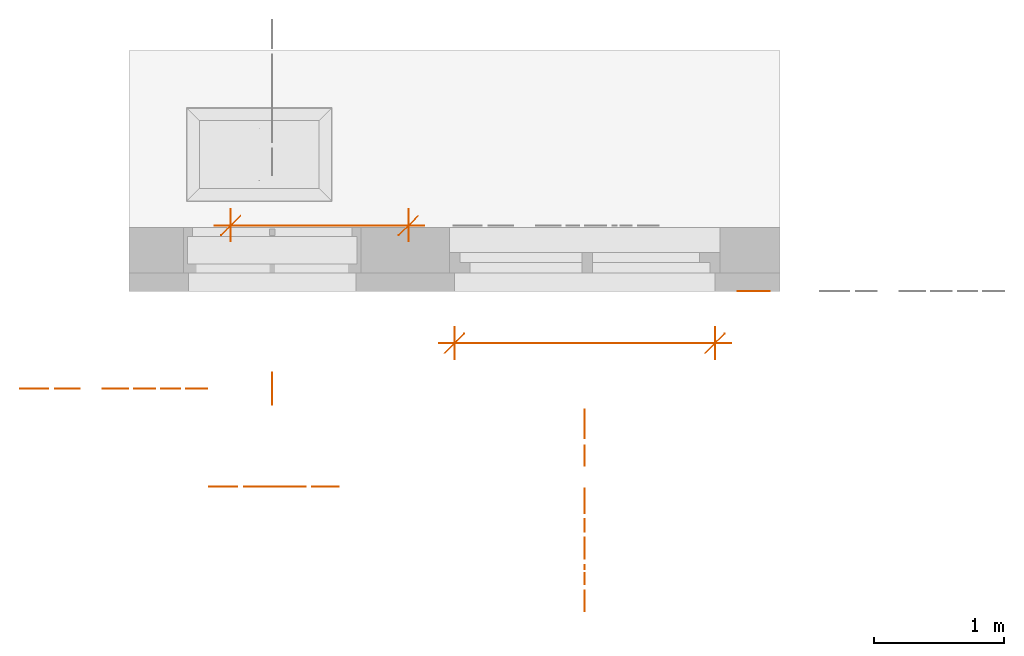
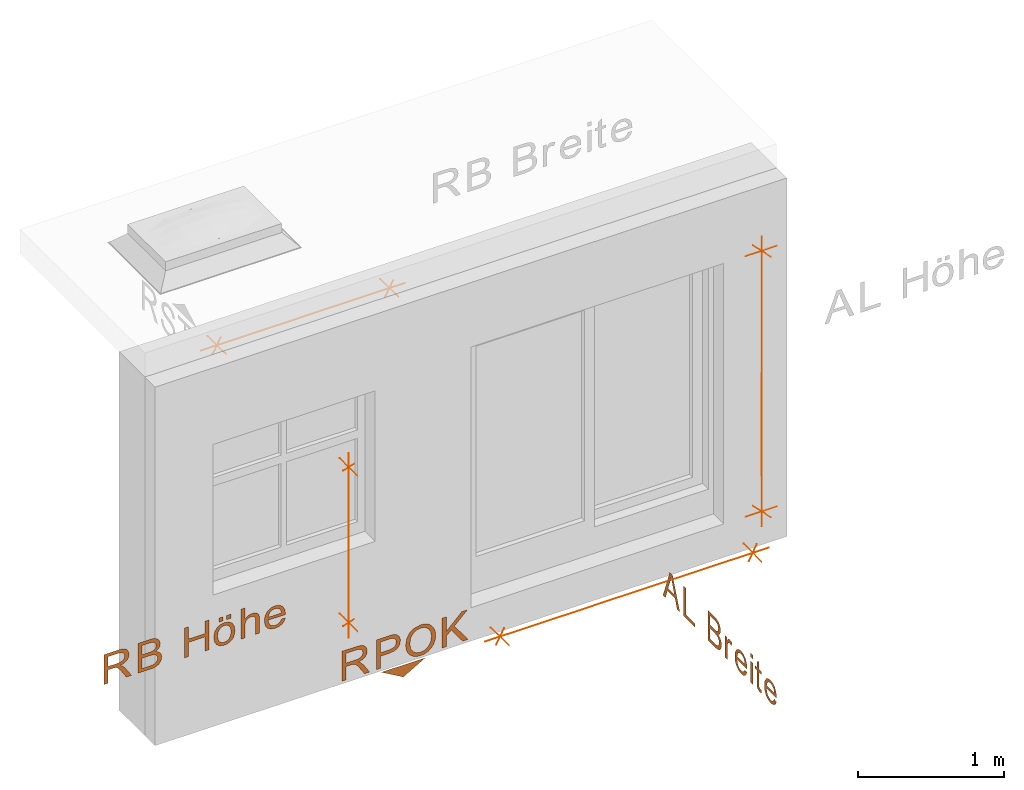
# One storey, part 4 of 5: 7 proxies, 7 elements without a shape of their own.
"""IFC4 building model written with IfcOpenShell, lengths in metres."""

import ifcopenshell
import ifcopenshell.guid

model = None  # the IFC model being written
_history = None  # IfcOwnerHistory: only IFC2X3 demands one
_inside = {}  # id of a spatial element -> (the spatial element, [elements in it])
_under = {}  # id of a project, library or spatial element -> (it, [spatial elements below it])
_declared = {}  # id of a project -> (the project, [libraries it declares])
_typed = {}  # id of a type object -> (the type object, [elements of that type])
_made_of = {}  # id of a material, layer set ... -> (it, [elements and type objects made of it])


def new_model(schema):
    """Start an empty IFC model of exactly this schema.

    Asked for "IFC4X3", IfcOpenShell would pick the latest addendum, in which some entities
    have other attributes; the version numbers below select the first issue.
    IFC2X3 requires an IfcOwnerHistory on every rooted entity: one is made here for all.
    """
    global model, _history
    if schema == "IFC4X3":
        model = ifcopenshell.file(schema_version=(4, 3, 0, 0))
    else:
        model = ifcopenshell.file(schema=schema)
    _inside.clear()
    _under.clear()
    _declared.clear()
    _typed.clear()
    _made_of.clear()
    _history = None
    if model.schema == "IFC2X3":
        org = make("IfcOrganization", Name="unknown")
        user = make(
            "IfcPersonAndOrganization",
            ThePerson=make("IfcPerson", FamilyName="unknown"),
            TheOrganization=org,
        )
        app = make(
            "IfcApplication",
            ApplicationDeveloper=org,
            Version="unknown",
            ApplicationFullName="unknown",
            ApplicationIdentifier="unknown",
        )
        _history = make(
            "IfcOwnerHistory",
            OwningUser=user,
            OwningApplication=app,
            ChangeAction="ADDED",
            CreationDate=0,
        )
    return model


def make(cls, **values):
    """One entity of the class cls with the attributes given. An attribute that is None is left unset."""
    return model.create_entity(
        cls, **{name: value for name, value in values.items() if value is not None}
    )


def entity(cls, *values):
    """Any entity or typed value of the class cls, its attributes in the order of the schema. None: left unset."""
    e = model.create_entity(cls)
    for i, value in enumerate(values):
        if value is not None:
            e[i] = value
    return e


def rooted(cls, **values):
    """An entity with a GlobalId (a new one), such as an element, a storey or a relation."""
    return make(cls, GlobalId=ifcopenshell.guid.new(), OwnerHistory=_history, **values)


def si_unit(unit_type, name, prefix=None):
    """IfcSIUnit, for example si_unit("LENGTHUNIT", "METRE", prefix="MILLI")."""
    return make("IfcSIUnit", UnitType=unit_type, Prefix=prefix, Name=name)


def converted_unit(unit_type, name, factor, base, dimensions=None, offset=None):
    """IfcConversionBasedUnit, such as the inch: factor (a typed value) times the base unit."""
    return make(
        "IfcConversionBasedUnit"
        if offset is None
        else "IfcConversionBasedUnitWithOffset",
        ConversionOffset=offset,
        Dimensions=None
        if dimensions is None
        else entity("IfcDimensionalExponents", *dimensions),
        UnitType=unit_type,
        Name=name,
        ConversionFactor=make(
            "IfcMeasureWithUnit", ValueComponent=factor, UnitComponent=base
        ),
    )


def derived_unit(unit_type, elements):
    """IfcDerivedUnit: a product of units, each with its exponent."""
    return make(
        "IfcDerivedUnit",
        Elements=[
            make("IfcDerivedUnitElement", Unit=unit, Exponent=power)
            for unit, power in elements
        ],
        UnitType=unit_type,
    )


def assignment(units):
    """IfcUnitAssignment: the units of a project."""
    return None if units is None else make("IfcUnitAssignment", Units=units)


def point(xyz):
    """IfcCartesianPoint."""
    return None if xyz is None else make("IfcCartesianPoint", Coordinates=xyz)


def direction(xyz):
    """IfcDirection."""
    return None if xyz is None else make("IfcDirection", DirectionRatios=xyz)


def frame(location, z_axis=None, x_axis=None):
    """IfcAxis2Placement3D, a coordinate frame: its origin and axes. An axis left out is left unset."""
    return make(
        "IfcAxis2Placement3D",
        Location=point(location),
        Axis=direction(z_axis),
        RefDirection=direction(x_axis),
    )


def origin():
    """The frame at (0, 0, 0) with its axes left unset."""
    return frame((0.0, 0.0, 0.0))


def origin_with_axes():
    """The frame at (0, 0, 0) with the z axis (0, 0, 1) and the x axis (1, 0, 0) written out."""
    return frame((0.0, 0.0, 0.0), z_axis=(0.0, 0.0, 1.0), x_axis=(1.0, 0.0, 0.0))


def place(relative_to, where):
    """IfcLocalPlacement: puts the frame where relative to a parent placement (None: the world)."""
    return make(
        "IfcLocalPlacement", PlacementRelTo=relative_to, RelativePlacement=where
    )


def context(
    kind, dimensions, precision=None, world=None, true_north=None, identifier=None
):
    """IfcGeometricRepresentationContext, for example the 3D "Model" context."""
    return make(
        "IfcGeometricRepresentationContext",
        ContextIdentifier=identifier,
        ContextType=kind,
        CoordinateSpaceDimension=dimensions,
        Precision=precision,
        WorldCoordinateSystem=world,
        TrueNorth=true_north,
    )


def subcontext(parent, identifier, kind, view, scale=None):
    """IfcGeometricRepresentationSubContext, for example "Body" below "Model"."""
    return make(
        "IfcGeometricRepresentationSubContext",
        ContextIdentifier=identifier,
        ContextType=kind,
        ParentContext=parent,
        TargetScale=scale,
        TargetView=view,
    )


def project(units=None, contexts=None):
    """IfcProject with its units and contexts."""
    return rooted(
        "IfcProject",
        Name="project",
        RepresentationContexts=contexts,
        UnitsInContext=assignment(units),
    )


def spatial(cls, under=None, at=None, **own):
    """A site, building, storey or space (cls), placed at a placement, below another one or the project."""
    s = rooted(cls, ObjectPlacement=at, **own)
    if under is not None:
        _under.setdefault(under.id(), (under, []))[1].append(s)
    return s


def faces_of(points, faces, orient=None, outer=None):
    """IfcFace entities. A face is a list of loops; a loop is a list of indices into points, from 0.

    orient and outer hold one flag for each loop. By default every Orientation is true, the
    first loop of a face is its IfcFaceOuterBound and the others are IfcFaceBound.
    """
    made = []
    for i, loops in enumerate(faces):
        bounds = []
        for j, loop in enumerate(loops):
            is_outer = j == 0 if outer is None else outer[i][j]
            bounds.append(
                make(
                    "IfcFaceOuterBound" if is_outer else "IfcFaceBound",
                    Bound=make("IfcPolyLoop", Polygon=[points[k] for k in loop]),
                    Orientation=True if orient is None else orient[i][j],
                )
            )
        made.append(make("IfcFace", Bounds=bounds))
    return made


def open_shell(faces, orient=None, outer=None):
    """The faces of one IfcOpenShell. surface_model builds it on its shared points."""
    return ("IfcOpenShell", faces, orient, outer)


def surface_model(cls, points, shells):
    """IfcFaceBasedSurfaceModel or IfcShellBasedSurfaceModel (cls): surfaces that need not close."""
    shared = [point(p) for p in points]
    made = [make(c, CfsFaces=faces_of(shared, fs, o, b)) for c, fs, o, b in shells]
    if cls == "IfcFaceBasedSurfaceModel":
        return make(cls, FbsmFaces=made)
    return make(cls, SbsmBoundary=made)


def shape(context_of_items, identifier, shape_type, items):
    """IfcShapeRepresentation: the items that make up one representation, for example the "Body"."""
    return make(
        "IfcShapeRepresentation",
        ContextOfItems=context_of_items,
        RepresentationIdentifier=identifier,
        RepresentationType=shape_type,
        Items=items,
    )


def source(mapping_origin, context_of_items, identifier, shape_type, items):
    """IfcRepresentationMap: a shape defined once, which mapped items show again and again."""
    return make(
        "IfcRepresentationMap",
        MappingOrigin=mapping_origin,
        MappedRepresentation=shape(context_of_items, identifier, shape_type, items),
    )


def transform(
    local_origin,
    x_axis=None,
    y_axis=None,
    z_axis=None,
    scale=None,
    scale2=None,
    scale3=None,
    uniform=True,
):
    """IfcCartesianTransformationOperator3D, or its non-uniform kind. x_axis, y_axis, z_axis: its Axis1, 2, 3."""
    if uniform:
        return make(
            "IfcCartesianTransformationOperator3D",
            Axis1=direction(x_axis),
            Axis2=direction(y_axis),
            LocalOrigin=point(local_origin),
            Scale=scale,
            Axis3=direction(z_axis),
        )
    return make(
        "IfcCartesianTransformationOperator3DnonUniform",
        Axis1=direction(x_axis),
        Axis2=direction(y_axis),
        LocalOrigin=point(local_origin),
        Scale=scale,
        Axis3=direction(z_axis),
        Scale2=scale2,
        Scale3=scale3,
    )


def mapped(mapping_source, mapping_target):
    """IfcMappedItem: shows the shape of a source again, moved by a transform."""
    return make(
        "IfcMappedItem", MappingSource=mapping_source, MappingTarget=mapping_target
    )


def made_of(thing, what):
    """Note that an element or type object is made of a material, layer set ...; save() writes the relation."""
    if what is not None:
        _made_of.setdefault(what.id(), (what, []))[1].append(thing)
    return thing


def element(
    cls,
    number,
    at=None,
    inside=None,
    cuts=None,
    type_object=None,
    material=None,
    context=None,
    identifier="Body",
    shape_type=None,
    held_by="IfcProductDefinitionShape",
    body=None,
    shapes=None,
    **own,
):
    """One element of the class cls, such as IfcWall. Its Tag is "e" and its number.

    at: its placement. inside: the storey or other place that contains it. cuts: it is an
    opening in that element (IfcRelVoidsElement). A single representation is given by context,
    identifier, shape_type and body (its items); several are given by shapes. held_by: the class
    of the entity that holds the representations. save() writes the other relations.
    """
    e = rooted(cls, Tag="e%d" % number, ObjectPlacement=at, **own)
    if body is not None:
        shapes = [shape(context, identifier, shape_type, body)]
    if shapes is not None:
        e.Representation = make(held_by, Representations=shapes)
    if inside is not None:
        _inside.setdefault(inside.id(), (inside, []))[1].append(e)
    if cuts is not None:
        rooted(
            "IfcRelVoidsElement", RelatingBuildingElement=cuts, RelatedOpeningElement=e
        )
    if type_object is not None:
        _typed.setdefault(type_object.id(), (type_object, []))[1].append(e)
    return made_of(e, material)


def aggregate(whole, parts):
    """IfcRelAggregates: a whole, such as a stair, and the parts it consists of."""
    return rooted("IfcRelAggregates", RelatingObject=whole, RelatedObjects=parts)


def save(model, path):
    """Write the relations noted so far, then the file.

    IfcRelAggregates (storeys below a building ...), IfcRelContainedInSpatialStructure (elements
    in a storey), IfcRelDefinesByType, IfcRelAssociatesMaterial and IfcRelDeclares: one each for
    every whole, place, type object, material and project.
    """
    for whole, parts in _under.values():
        aggregate(whole, parts)
    for where, things in _inside.values():
        rooted(
            "IfcRelContainedInSpatialStructure",
            RelatedElements=things,
            RelatingStructure=where,
        )
    for kind, things in _typed.values():
        rooted("IfcRelDefinesByType", RelatedObjects=things, RelatingType=kind)
    for what, things in _made_of.values():
        rooted("IfcRelAssociatesMaterial", RelatedObjects=things, RelatingMaterial=what)
    for by, libraries in _declared.values():
        rooted("IfcRelDeclares", RelatingContext=by, RelatedDefinitions=libraries)
    model.write(path)


model = new_model("IFC4")

# Units and contexts
model_context = context("Model", 3, precision=1e-05, world=origin())
body_context = subcontext(model_context, "Body", "Model", "MODEL_VIEW")
ifc_project = project(units=[si_unit("LENGTHUNIT", "METRE"), si_unit("AREAUNIT", "SQUARE_METRE"), si_unit("VOLUMEUNIT", "CUBIC_METRE"), si_unit("MASSUNIT", "GRAM", prefix="KILO"), converted_unit("PLANEANGLEUNIT", "DEGREE", entity("IfcPlaneAngleMeasure", 0.0174532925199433), si_unit("PLANEANGLEUNIT", "RADIAN"), dimensions=[0, 0, 0, 0, 0, 0, 0]), derived_unit("THERMALTRANSMITTANCEUNIT", [(si_unit("POWERUNIT", "WATT"), 1), (si_unit("THERMODYNAMICTEMPERATUREUNIT", "KELVIN"), -1), (si_unit("LENGTHUNIT", "METRE"), -2)]), derived_unit("VOLUMETRICFLOWRATEUNIT", [(si_unit("LENGTHUNIT", "METRE"), 3), (converted_unit("TIMEUNIT", "hour", entity("IfcTimeMeasure", 3600.0), si_unit("TIMEUNIT", "SECOND"), dimensions=[0, 0, 1, 0, 0, 0, 0]), -1), (si_unit("LENGTHUNIT", "METRE"), -1)])], contexts=[model_context])

# Site, building, storey
site_placement = place(None, origin())
site = spatial("IfcSite", under=ifc_project, at=site_placement, Name="Liegenschaft", CompositionType="ELEMENT")
building_placement = place(site_placement, origin())
building = spatial("IfcBuilding", under=site, at=building_placement, Name="Gebäude", CompositionType="ELEMENT")
storey_placement = place(building_placement, origin())
storey = spatial("IfcBuildingStorey", under=building, at=storey_placement, Name="Geschoss 01", CompositionType="ELEMENT", Elevation=0.0)

# Assembly, proxy
assembly_1_placement = place(storey_placement, origin())
assembly_1 = element("IfcElementAssembly", 1, at=assembly_1_placement, inside=storey, Name="SpatialDim_Group", PredefinedType="NOTDEFINED")
shared_shape_1 = source(origin_with_axes(), body_context, "Body", "SurfaceModel", [
    surface_model("IfcShellBasedSurfaceModel", [(0.0, 0.5135, 0.0), (0.1, 0.686705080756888, 0.0), (0.1, 0.340294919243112, 0.0)], [open_shell([[[0, 1, 2]]], orient=[[False]])]),
    surface_model("IfcShellBasedSurfaceModel", [(0.135, 0.999, 0.0), (0.135, 0.966, 0.0), (0.246, 0.966, 0.0), (0.246, 0.928, 0.0), (0.2455, 0.916625, 0.0), (0.245, 0.909, 0.0), (0.241875, 0.9015, 0.0), (0.238, 0.894, 0.0), (0.231875, 0.886375, 0.0), (0.222, 0.878, 0.0), (0.207125, 0.86675, 0.0), (0.187, 0.854, 0.0), (0.135, 0.821, 0.0), (0.135, 0.78, 0.0), (0.203, 0.823, 0.0), (0.221875, 0.8365, 0.0), (0.237, 0.85, 0.0), (0.243, 0.858875, 0.0), (0.249, 0.87, 0.0), (0.2575, 0.838625, 0.0), (0.272, 0.817, 0.0), (0.29225, 0.804, 0.0), (0.317, 0.8, 0.0), (0.337125, 0.80275, 0.0), (0.355, 0.81, 0.0), (0.3695, 0.822875, 0.0), (0.378, 0.838, 0.0), (0.383375, 0.85975, 0.0), (0.385, 0.889, 0.0), (0.385, 0.999, 0.0), (0.276, 0.875625, 0.0), (0.275, 0.895, 0.0), (0.275, 0.966, 0.0), (0.357, 0.966, 0.0), (0.357, 0.887, 0.0), (0.354125, 0.86325, 0.0), (0.346, 0.847, 0.0), (0.332625, 0.837125, 0.0), (0.317, 0.834, 0.0), (0.30525, 0.836, 0.0), (0.295, 0.841, 0.0), (0.28525, 0.849, 0.0), (0.28, 0.86, 0.0)], [open_shell([[[0, 1, 2, 3, 4, 5, 6, 7, 8, 9, 10, 11, 12, 13, 14, 15, 16, 17, 18, 19, 20, 21, 22, 23, 24, 25, 26, 27, 28, 29], [30, 31, 32, 33, 34, 35, 36, 37, 38, 39, 40, 41, 42]]], orient=[[False, False]])]),
    surface_model("IfcShellBasedSurfaceModel", [(0.135, 0.727, 0.0), (0.135, 0.694, 0.0), (0.237, 0.694, 0.0), (0.237, 0.63, 0.0), (0.24275, 0.584875, 0.0), (0.259, 0.557, 0.0), (0.28375, 0.54175, 0.0), (0.313, 0.537, 0.0), (0.33075, 0.539125, 0.0), (0.347, 0.545, 0.0), (0.3605, 0.553875, 0.0), (0.371, 0.565, 0.0), (0.3785, 0.5785, 0.0), (0.383, 0.595, 0.0), (0.38475, 0.611375, 0.0), (0.385, 0.633, 0.0), (0.385, 0.727, 0.0), (0.269, 0.602875, 0.0), (0.266, 0.63, 0.0), (0.266, 0.694, 0.0), (0.356, 0.694, 0.0), (0.356, 0.63, 0.0), (0.355375, 0.61125, 0.0), (0.354, 0.6, 0.0), (0.348, 0.588, 0.0), (0.339, 0.579, 0.0), (0.32625, 0.57275, 0.0), (0.312, 0.571, 0.0), (0.292375, 0.5745, 0.0), (0.278, 0.584, 0.0)], [open_shell([[[0, 1, 2, 3, 4, 5, 6, 7, 8, 9, 10, 11, 12, 13, 14, 15, 16], [17, 18, 19, 20, 21, 22, 23, 24, 25, 26, 27, 28, 29]]], orient=[[False, False]])]),
    surface_model("IfcShellBasedSurfaceModel", [(0.22475, 0.492375, 0.0), (0.194, 0.482, 0.0), (0.167625, 0.464, 0.0), (0.148, 0.44, 0.0), (0.135, 0.41, 0.0), (0.131, 0.377, 0.0), (0.13475, 0.3455, 0.0), (0.146, 0.317, 0.0), (0.165625, 0.291625, 0.0), (0.192, 0.273, 0.0), (0.224125, 0.26175, 0.0), (0.26, 0.258, 0.0), (0.29525, 0.26175, 0.0), (0.326, 0.273, 0.0), (0.352875, 0.291, 0.0), (0.373, 0.315, 0.0), (0.385125, 0.344125, 0.0), (0.389, 0.377, 0.0), (0.380125, 0.424875, 0.0), (0.354, 0.463, 0.0), (0.311875, 0.48775, 0.0), (0.257, 0.496, 0.0), (0.216875, 0.456, 0.0), (0.256, 0.462, 0.0), (0.30425, 0.4555, 0.0), (0.336, 0.437, 0.0), (0.354, 0.40925, 0.0), (0.36, 0.377, 0.0), (0.357, 0.353, 0.0), (0.348, 0.332, 0.0), (0.332375, 0.31475, 0.0), (0.313, 0.302, 0.0), (0.288, 0.294375, 0.0), (0.26, 0.292, 0.0), (0.217375, 0.298, 0.0), (0.186, 0.316, 0.0), (0.16625, 0.3435, 0.0), (0.16, 0.377, 0.0), (0.166625, 0.410875, 0.0), (0.186, 0.438, 0.0)], [open_shell([[[0, 1, 2, 3, 4, 5, 6, 7, 8, 9, 10, 11, 12, 13, 14, 15, 16, 17, 18, 19, 20, 21], [22, 23, 24, 25, 26, 27, 28, 29, 30, 31, 32, 33, 34, 35, 36, 37, 38, 39]]], orient=[[False, False]])]),
    surface_model("IfcShellBasedSurfaceModel", [(0.135, 0.207, 0.0), (0.135, 0.174, 0.0), (0.222, 0.174, 0.0), (0.261, 0.134, 0.0), (0.135, 0.0439999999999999, 0.0), (0.135, 0.0, 0.0), (0.284, 0.11, 0.0), (0.385, 0.00599999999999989, 0.0), (0.385, 0.0509999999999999, 0.0), (0.263, 0.174, 0.0), (0.385, 0.174, 0.0), (0.385, 0.207, 0.0)], [open_shell([[[0, 1, 2, 3, 4, 5, 6, 7, 8, 9, 10, 11]]], orient=[[False]])]),
])
proxy_1_placement = place(assembly_1_placement, frame((210.677713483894, -0.258129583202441, 1.1), z_axis=(-1.22464679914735e-16, -1.0, 1.49975978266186e-32), x_axis=(1.22464679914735e-16, 0.0, 1.0)))
proxy_1 = element("IfcBuildingElementProxy", 2, at=proxy_1_placement, Name="RPOK", context=body_context, shape_type="MappedRepresentation", body=[
    mapped(shared_shape_1, transform((0.0, 0.0, 0.0), x_axis=(1.0, 0.0, 0.0), y_axis=(0.0, 1.0, 0.0), z_axis=(0.0, 0.0, 1.0), scale=1.0)),
])
aggregate(assembly_1, [proxy_1])

assembly_2_placement = place(storey_placement, origin())
assembly_2 = element("IfcElementAssembly", 3, at=assembly_2_placement, inside=storey, Name="SpatialDim_Group", PredefinedType="NOTDEFINED")
shared_shape_2 = source(origin_with_axes(), body_context, "Axis", "Curve3D", [
    entity("IfcPolyline", [entity("IfcCartesianPoint", [0.05, 0.05, 0.0]), entity("IfcCartesianPoint", [0.2, 0.2, 0.0])]),
    entity("IfcPolyline", [entity("IfcCartesianPoint", [0.125, 0.0, 0.0]), entity("IfcCartesianPoint", [0.125, 0.25, 0.0])]),
    entity("IfcPolyline", [entity("IfcCartesianPoint", [1.35, 0.05, 0.0]), entity("IfcCartesianPoint", [1.5, 0.2, 0.0])]),
    entity("IfcPolyline", [entity("IfcCartesianPoint", [1.425, 0.0, 0.0]), entity("IfcCartesianPoint", [1.425, 0.25, 0.0])]),
    entity("IfcPolyline", [entity("IfcCartesianPoint", [0.0, 0.125, 0.0]), entity("IfcCartesianPoint", [1.55, 0.125, 0.0])]),
])
proxy_2_placement = place(assembly_2_placement, frame((210.164213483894, 0.366870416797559, 2.525), z_axis=(1.0, 0.0, 1.22464679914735e-16), x_axis=(1.22464679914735e-16, 0.0, -1.0)))
proxy_2 = element("IfcBuildingElementProxy", 4, at=proxy_2_placement, Name="macro", context=body_context, shape_type="MappedRepresentation", body=[
    mapped(shared_shape_2, transform((0.0, 0.0, 0.0), x_axis=(1.0, 0.0, 0.0), y_axis=(0.0, 1.0, 0.0), z_axis=(0.0, 0.0, 1.0), scale=1.0)),
])
aggregate(assembly_2, [proxy_2])

assembly_3_placement = place(storey_placement, origin())
assembly_3 = element("IfcElementAssembly", 5, at=assembly_3_placement, inside=storey, Name="SpatialDim_Group", PredefinedType="NOTDEFINED")
shared_shape_3 = source(origin_with_axes(), body_context, "Axis", "Curve3D", [
    entity("IfcPolyline", [entity("IfcCartesianPoint", [0.05, 0.05, 0.0]), entity("IfcCartesianPoint", [0.2, 0.2, 0.0])]),
    entity("IfcPolyline", [entity("IfcCartesianPoint", [0.125, 0.25, 0.0]), entity("IfcCartesianPoint", [0.125, 0.0, 0.0])]),
    entity("IfcPolyline", [entity("IfcCartesianPoint", [1.415, 0.05, 0.0]), entity("IfcCartesianPoint", [1.565, 0.2, 0.0])]),
    entity("IfcPolyline", [entity("IfcCartesianPoint", [1.49, 0.25, 0.0]), entity("IfcCartesianPoint", [1.49, 0.0, 0.0])]),
    entity("IfcPolyline", [entity("IfcCartesianPoint", [0.0, 0.125, 0.0]), entity("IfcCartesianPoint", [1.615, 0.125, 0.0])]),
])
proxy_3_placement = place(assembly_3_placement, frame((211.336662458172, 1.87181939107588, 2.76989794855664), z_axis=(0.0, 0.0, 1.0), x_axis=(-1.0, 1.22464679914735e-16, 0.0)))
proxy_3 = element("IfcBuildingElementProxy", 6, at=proxy_3_placement, Name="macro", context=body_context, shape_type="MappedRepresentation", body=[
    mapped(shared_shape_3, transform((0.0, 0.0, 0.0), x_axis=(1.0, 0.0, 0.0), y_axis=(0.0, 1.0, 0.0), z_axis=(0.0, 0.0, 1.0), scale=1.0)),
])
aggregate(assembly_3, [proxy_3])

assembly_4_placement = place(storey_placement, origin())
assembly_4 = element("IfcElementAssembly", 7, at=assembly_4_placement, inside=storey, Name="SpatialDim_Group", PredefinedType="NOTDEFINED")
shared_shape_4 = source(origin_with_axes(), body_context, "Body", "SurfaceModel", [
    surface_model("IfcShellBasedSurfaceModel", [(0.00999999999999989, 1.937, 0.0), (0.00999999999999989, 1.904, 0.0), (0.121, 1.904, 0.0), (0.121, 1.866, 0.0), (0.1205, 1.854625, 0.0), (0.12, 1.847, 0.0), (0.116875, 1.8395, 0.0), (0.113, 1.832, 0.0), (0.106875, 1.824375, 0.0), (0.0969999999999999, 1.816, 0.0), (0.0821249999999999, 1.80475, 0.0), (0.0619999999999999, 1.792, 0.0), (0.00999999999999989, 1.759, 0.0), (0.00999999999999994, 1.718, 0.0), (0.0779999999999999, 1.761, 0.0), (0.0968749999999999, 1.7745, 0.0), (0.112, 1.788, 0.0), (0.118, 1.796875, 0.0), (0.124, 1.808, 0.0), (0.1325, 1.776625, 0.0), (0.147, 1.755, 0.0), (0.16725, 1.742, 0.0), (0.192, 1.738, 0.0), (0.212125, 1.74075, 0.0), (0.23, 1.748, 0.0), (0.2445, 1.760875, 0.0), (0.253, 1.776, 0.0), (0.258375, 1.79775, 0.0), (0.26, 1.827, 0.0), (0.26, 1.937, 0.0), (0.151, 1.813625, 0.0), (0.15, 1.833, 0.0), (0.15, 1.904, 0.0), (0.232, 1.904, 0.0), (0.232, 1.825, 0.0), (0.229125, 1.80125, 0.0), (0.221, 1.785, 0.0), (0.207625, 1.775125, 0.0), (0.192, 1.772, 0.0), (0.18025, 1.774, 0.0), (0.17, 1.779, 0.0), (0.16025, 1.787, 0.0), (0.155, 1.798, 0.0)], [open_shell([[[0, 1, 2, 3, 4, 5, 6, 7, 8, 9, 10, 11, 12, 13, 14, 15, 16, 17, 18, 19, 20, 21, 22, 23, 24, 25, 26, 27, 28, 29], [30, 31, 32, 33, 34, 35, 36, 37, 38, 39, 40, 41, 42]]], orient=[[False, False]])]),
    surface_model("IfcShellBasedSurfaceModel", [(0.00999999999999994, 1.667, 0.0), (0.00999999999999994, 1.572, 0.0), (0.0112499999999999, 1.54975, 0.0), (0.0139999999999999, 1.532, 0.0), (0.0192499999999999, 1.517, 0.0), (0.0259999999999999, 1.505, 0.0), (0.0364999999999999, 1.494375, 0.0), (0.0499999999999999, 1.486, 0.0), (0.0656249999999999, 1.480625, 0.0), (0.0819999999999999, 1.479, 0.0), (0.102375, 1.482, 0.0), (0.119, 1.491, 0.0), (0.133125, 1.506625, 0.0), (0.142, 1.526, 0.0), (0.152375, 1.51075, 0.0), (0.165, 1.5, 0.0), (0.180125, 1.49325, 0.0), (0.196, 1.491, 0.0), (0.21325, 1.49375, 0.0), (0.229, 1.501, 0.0), (0.243125, 1.513, 0.0), (0.252, 1.528, 0.0), (0.25825, 1.548375, 0.0), (0.26, 1.574, 0.0), (0.26, 1.667, 0.0), (0.15475, 1.561875, 0.0), (0.154, 1.58, 0.0), (0.154, 1.634, 0.0), (0.231, 1.634, 0.0), (0.231, 1.584, 0.0), (0.22975, 1.561375, 0.0), (0.227, 1.547, 0.0), (0.222, 1.537, 0.0), (0.214, 1.53, 0.0), (0.20375, 1.5255, 0.0), (0.192, 1.524, 0.0), (0.179875, 1.5255, 0.0), (0.17, 1.53, 0.0), (0.162, 1.538375, 0.0), (0.157, 1.549, 0.0), (0.0391249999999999, 1.55875, 0.0), (0.0389999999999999, 1.572, 0.0), (0.0389999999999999, 1.634, 0.0), (0.125, 1.634, 0.0), (0.125, 1.577, 0.0), (0.12375, 1.5555, 0.0), (0.121, 1.54, 0.0), (0.115, 1.528875, 0.0), (0.106, 1.52, 0.0), (0.0947499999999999, 1.514625, 0.0), (0.0819999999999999, 1.513, 0.0), (0.0707499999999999, 1.514375, 0.0), (0.0609999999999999, 1.518, 0.0), (0.0528749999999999, 1.524125, 0.0), (0.0469999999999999, 1.531, 0.0), (0.0423749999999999, 1.539375, 0.0), (0.0399999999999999, 1.55, 0.0)], [open_shell([[[0, 1, 2, 3, 4, 5, 6, 7, 8, 9, 10, 11, 12, 13, 14, 15, 16, 17, 18, 19, 20, 21, 22, 23, 24], [25, 26, 27, 28, 29, 30, 31, 32, 33, 34, 35, 36, 37, 38, 39], [40, 41, 42, 43, 44, 45, 46, 47, 48, 49, 50, 51, 52, 53, 54, 55, 56]]], orient=[[False, False, False]])]),
    surface_model("IfcShellBasedSurfaceModel", [(0.00999999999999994, 1.301, 0.0), (0.01, 1.268, 0.0), (0.128, 1.268, 0.0), (0.128, 1.138, 0.0), (0.01, 1.138, 0.0), (0.01, 1.105, 0.0), (0.26, 1.105, 0.0), (0.26, 1.138, 0.0), (0.157, 1.138, 0.0), (0.157, 1.268, 0.0), (0.26, 1.268, 0.0), (0.26, 1.301, 0.0)], [open_shell([[[0, 1, 2, 3, 4, 5, 6, 7, 8, 9, 10, 11]]], orient=[[False]])]),
    surface_model("IfcShellBasedSurfaceModel", [(0.213, 0.965, 0.0), (0.213, 0.933, 0.0), (0.247, 0.933, 0.0), (0.247, 0.965, 0.0), (0.213, 1.027, 0.0), (0.213, 0.995, 0.0), (0.247, 0.995, 0.0), (0.247, 1.027, 0.0), (0.059875, 1.062125, 0.0), (0.03, 1.045, 0.0), (0.012, 1.017875, 0.0), (0.006, 0.984, 0.0), (0.008875, 0.961, 0.0), (0.017, 0.941, 0.0), (0.030625, 0.922875, 0.0), (0.048, 0.91, 0.0), (0.072125, 0.902375, 0.0), (0.103, 0.9, 0.0), (0.141875, 0.905875, 0.0), (0.171, 0.923, 0.0), (0.189, 0.9505, 0.0), (0.195, 0.984, 0.0), (0.189875, 1.014625, 0.0), (0.175, 1.04, 0.0), (0.144375, 1.061125, 0.0), (0.101, 1.068, 0.0), (0.070375, 1.03325, 0.0), (0.101, 1.037, 0.0), (0.131125, 1.03325, 0.0), (0.153, 1.022, 0.0), (0.166, 1.004875, 0.0), (0.17, 0.984, 0.0), (0.165625, 0.96275, 0.0), (0.153, 0.946, 0.0), (0.13125, 0.934750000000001, 0.0), (0.102, 0.931, 0.0), (0.0705, 0.934750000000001, 0.0), (0.048, 0.946, 0.0), (0.035, 0.963125, 0.0), (0.031, 0.984, 0.0), (0.035375, 1.00525, 0.0), (0.048, 1.022, 0.0)], [open_shell([[[0, 1, 2, 3]], [[4, 5, 6, 7]], [[8, 9, 10, 11, 12, 13, 14, 15, 16, 17, 18, 19, 20, 21, 22, 23, 24, 25], [26, 27, 28, 29, 30, 31, 32, 33, 34, 35, 36, 37, 38, 39, 40, 41]]], orient=[[False], [False], [False, False]])]),
    surface_model("IfcShellBasedSurfaceModel", [(0.01, 0.851, 0.0), (0.01, 0.820000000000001, 0.0), (0.109, 0.820000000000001, 0.0), (0.128625, 0.818625, 0.0), (0.143, 0.815000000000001, 0.0), (0.154, 0.808, 0.0), (0.162, 0.798, 0.0), (0.167375, 0.785875, 0.0), (0.169, 0.773, 0.0), (0.16625, 0.75725, 0.0), (0.159, 0.746, 0.0), (0.144625, 0.738375, 0.0), (0.125, 0.736, 0.0), (0.0100000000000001, 0.736, 0.0), (0.0100000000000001, 0.705000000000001, 0.0), (0.125, 0.705000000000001, 0.0), (0.148375, 0.7065, 0.0), (0.165, 0.711000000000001, 0.0), (0.177875, 0.72, 0.0), (0.187, 0.732, 0.0), (0.19325, 0.748375, 0.0), (0.195, 0.767, 0.0), (0.189, 0.7965, 0.0), (0.171, 0.820000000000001, 0.0), (0.26, 0.820000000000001, 0.0), (0.26, 0.851, 0.0)], [open_shell([[[0, 1, 2, 3, 4, 5, 6, 7, 8, 9, 10, 11, 12, 13, 14, 15, 16, 17, 18, 19, 20, 21, 22, 23, 24, 25]]], orient=[[False]])]),
    surface_model("IfcShellBasedSurfaceModel", [(0.0680000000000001, 0.532, 0.0), (0.0513750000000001, 0.540875, 0.0), (0.0400000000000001, 0.552, 0.0), (0.0332500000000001, 0.565375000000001, 0.0), (0.0310000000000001, 0.581000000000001, 0.0), (0.0352500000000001, 0.60275, 0.0), (0.0470000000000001, 0.62, 0.0), (0.0666250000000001, 0.631875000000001, 0.0), (0.0930000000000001, 0.637, 0.0), (0.0930000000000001, 0.5, 0.0), (0.0977500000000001, 0.5, 0.0), (0.101, 0.5, 0.0), (0.14075, 0.505875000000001, 0.0), (0.17, 0.523, 0.0), (0.188875, 0.55, 0.0), (0.195, 0.583000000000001, 0.0), (0.1885, 0.617625, 0.0), (0.17, 0.644, 0.0), (0.139375, 0.662, 0.0), (0.0990000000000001, 0.668, 0.0), (0.0592500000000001, 0.662125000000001, 0.0), (0.0300000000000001, 0.645, 0.0), (0.0120000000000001, 0.61675, 0.0), (0.00600000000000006, 0.581000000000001, 0.0), (0.00975000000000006, 0.551625, 0.0), (0.0210000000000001, 0.529, 0.0), (0.0395000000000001, 0.511625, 0.0), (0.0640000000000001, 0.501, 0.0), (0.137625, 0.535750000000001, 0.0), (0.118, 0.532, 0.0), (0.118, 0.636, 0.0), (0.139625, 0.630625, 0.0), (0.156, 0.62, 0.0), (0.16675, 0.603, 0.0), (0.17, 0.583000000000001, 0.0), (0.1655, 0.56125, 0.0), (0.152, 0.544, 0.0)], [open_shell([[[0, 1, 2, 3, 4, 5, 6, 7, 8, 9, 10, 11, 12, 13, 14, 15, 16, 17, 18, 19, 20, 21, 22, 23, 24, 25, 26, 27], [28, 29, 30, 31, 32, 33, 34, 35, 36]]], orient=[[False, False]])]),
])
proxy_4_placement = place(assembly_4_placement, frame((210.164213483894, 0.491870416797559, 1.25), z_axis=(-1.22464679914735e-16, -1.0, 1.49975978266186e-32), x_axis=(1.22464679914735e-16, 0.0, 1.0)))
proxy_4 = element("IfcBuildingElementProxy", 8, at=proxy_4_placement, Name="macro", context=body_context, shape_type="MappedRepresentation", body=[
    mapped(shared_shape_4, transform((0.0, 0.0, 0.0), x_axis=(1.0, 0.0, 0.0), y_axis=(0.0, 1.0, 0.0), z_axis=(0.0, 0.0, 1.0), scale=1.0)),
])
aggregate(assembly_4, [proxy_4])

assembly_5_placement = place(storey_placement, origin())
assembly_5 = element("IfcElementAssembly", 9, at=assembly_5_placement, inside=storey, Name="SpatialDim_Group", PredefinedType="NOTDEFINED")
shared_shape_5 = source(origin_with_axes(), body_context, "Axis", "Curve3D", [
    entity("IfcPolyline", [entity("IfcCartesianPoint", [0.05, 0.05, 0.0]), entity("IfcCartesianPoint", [0.2, 0.2, 0.0])]),
    entity("IfcPolyline", [entity("IfcCartesianPoint", [0.125, 0.25, 0.0]), entity("IfcCartesianPoint", [0.125, 0.0, 0.0])]),
    entity("IfcPolyline", [entity("IfcCartesianPoint", [2.23, 0.05, 0.0]), entity("IfcCartesianPoint", [2.38, 0.2, 0.0])]),
    entity("IfcPolyline", [entity("IfcCartesianPoint", [2.305, 0.25, 0.0]), entity("IfcCartesianPoint", [2.305, 0.0, 0.0])]),
    entity("IfcPolyline", [entity("IfcCartesianPoint", [0.0, 0.125, 0.0]), entity("IfcCartesianPoint", [2.43, 0.125, 0.0])]),
])
proxy_5_placement = place(assembly_5_placement, frame((213.739213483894, 1.24187041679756, 2.585), z_axis=(1.22464679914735e-16, -1.0, 1.49975978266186e-32), x_axis=(1.22464679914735e-16, 0.0, -1.0)))
proxy_5 = element("IfcBuildingElementProxy", 10, at=proxy_5_placement, Name="macro", context=body_context, shape_type="MappedRepresentation", body=[
    mapped(shared_shape_5, transform((0.0, 0.0, 0.0), x_axis=(1.0, 0.0, 0.0), y_axis=(0.0, 1.0, 0.0), z_axis=(0.0, 0.0, 1.0), scale=1.0)),
])
aggregate(assembly_5, [proxy_5])

assembly_6_placement = place(storey_placement, origin())
assembly_6 = element("IfcElementAssembly", 11, at=assembly_6_placement, inside=storey, Name="SpatialDim_Group", PredefinedType="NOTDEFINED")
shared_shape_6 = source(origin_with_axes(), body_context, "Axis", "Curve3D", [
    entity("IfcPolyline", [entity("IfcCartesianPoint", [0.05, 0.05, 0.0]), entity("IfcCartesianPoint", [0.2, 0.2, 0.0])]),
    entity("IfcPolyline", [entity("IfcCartesianPoint", [0.125, 0.0, 0.0]), entity("IfcCartesianPoint", [0.125, 0.25, 0.0])]),
    entity("IfcPolyline", [entity("IfcCartesianPoint", [2.05, 0.05, 0.0]), entity("IfcCartesianPoint", [2.2, 0.2, 0.0])]),
    entity("IfcPolyline", [entity("IfcCartesianPoint", [2.125, 0.0, 0.0]), entity("IfcCartesianPoint", [2.125, 0.25, 0.0])]),
    entity("IfcPolyline", [entity("IfcCartesianPoint", [0.0, 0.125, 0.0]), entity("IfcCartesianPoint", [2.25, 0.125, 0.0])]),
])
proxy_6_placement = place(assembly_6_placement, frame((211.439213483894, 0.716870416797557, 0.28)))
proxy_6 = element("IfcBuildingElementProxy", 12, at=proxy_6_placement, Name="macro", context=body_context, shape_type="MappedRepresentation", body=[
    mapped(shared_shape_6, transform((0.0, 0.0, 0.0), x_axis=(1.0, 0.0, 0.0), y_axis=(0.0, 1.0, 0.0), z_axis=(0.0, 0.0, 1.0), scale=1.0)),
])
aggregate(assembly_6, [proxy_6])

assembly_7_placement = place(storey_placement, origin())
assembly_7 = element("IfcElementAssembly", 13, at=assembly_7_placement, inside=storey, Name="SpatialDim_Group", PredefinedType="NOTDEFINED")
shared_shape_7 = source(origin_with_axes(), body_context, "Body", "SurfaceModel", [
    surface_model("IfcShellBasedSurfaceModel", [(0.298675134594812, 1.558, 0.0), (0.298675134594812, 1.523, 0.0), (0.374675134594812, 1.496, 0.0), (0.374675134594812, 1.391, 0.0), (0.298675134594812, 1.363, 0.0), (0.298675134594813, 1.325, 0.0), (0.548675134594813, 1.426, 0.0), (0.548675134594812, 1.463, 0.0), (0.470675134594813, 1.427, 0.0), (0.401675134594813, 1.402, 0.0), (0.401675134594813, 1.486, 0.0), (0.474675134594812, 1.459, 0.0), (0.498675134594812, 1.45125, 0.0), (0.522675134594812, 1.445, 0.0), (0.499300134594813, 1.4375, 0.0)], [open_shell([[[0, 1, 2, 3, 4, 5, 6, 7], [8, 9, 10, 11, 12, 13, 14]]], orient=[[False, False]])]),
    surface_model("IfcShellBasedSurfaceModel", [(0.298675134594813, 1.274, 0.0), (0.298675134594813, 1.118, 0.0), (0.327675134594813, 1.118, 0.0), (0.327675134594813, 1.241, 0.0), (0.548675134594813, 1.241, 0.0), (0.548675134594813, 1.274, 0.0)], [open_shell([[[0, 1, 2, 3, 4, 5]]], orient=[[False]])]),
    surface_model("IfcShellBasedSurfaceModel", [(0.298675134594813, 0.942, 0.0), (0.298675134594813, 0.847, 0.0), (0.299925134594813, 0.82475, 0.0), (0.302675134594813, 0.807, 0.0), (0.307925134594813, 0.792, 0.0), (0.314675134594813, 0.78, 0.0), (0.325175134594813, 0.769375, 0.0), (0.338675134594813, 0.761, 0.0), (0.354300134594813, 0.755625, 0.0), (0.370675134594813, 0.754, 0.0), (0.391050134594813, 0.757, 0.0), (0.407675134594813, 0.766, 0.0), (0.421800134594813, 0.781625, 0.0), (0.430675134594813, 0.801, 0.0), (0.441050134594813, 0.78575, 0.0), (0.453675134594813, 0.775, 0.0), (0.468800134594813, 0.76825, 0.0), (0.484675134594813, 0.766, 0.0), (0.501925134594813, 0.76875, 0.0), (0.517675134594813, 0.776, 0.0), (0.531800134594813, 0.788, 0.0), (0.540675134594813, 0.803, 0.0), (0.546925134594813, 0.823375, 0.0), (0.548675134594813, 0.849, 0.0), (0.548675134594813, 0.942, 0.0), (0.443425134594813, 0.836875, 0.0), (0.442675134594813, 0.855, 0.0), (0.442675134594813, 0.909, 0.0), (0.519675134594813, 0.909, 0.0), (0.519675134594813, 0.859, 0.0), (0.518425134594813, 0.836375, 0.0), (0.515675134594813, 0.822, 0.0), (0.510675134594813, 0.812, 0.0), (0.502675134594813, 0.805, 0.0), (0.492425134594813, 0.8005, 0.0), (0.480675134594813, 0.799, 0.0), (0.468550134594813, 0.8005, 0.0), (0.458675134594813, 0.805, 0.0), (0.450675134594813, 0.813375, 0.0), (0.445675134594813, 0.824, 0.0), (0.327800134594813, 0.83375, 0.0), (0.327675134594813, 0.847, 0.0), (0.327675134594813, 0.909, 0.0), (0.413675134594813, 0.909, 0.0), (0.413675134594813, 0.852, 0.0), (0.412425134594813, 0.8305, 0.0), (0.409675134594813, 0.815, 0.0), (0.403675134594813, 0.803875, 0.0), (0.394675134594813, 0.795, 0.0), (0.383425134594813, 0.789625, 0.0), (0.370675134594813, 0.788, 0.0), (0.359425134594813, 0.789375, 0.0), (0.349675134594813, 0.793, 0.0), (0.341550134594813, 0.799125, 0.0), (0.335675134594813, 0.806, 0.0), (0.331050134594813, 0.814375, 0.0), (0.328675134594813, 0.825, 0.0)], [open_shell([[[0, 1, 2, 3, 4, 5, 6, 7, 8, 9, 10, 11, 12, 13, 14, 15, 16, 17, 18, 19, 20, 21, 22, 23, 24], [25, 26, 27, 28, 29, 30, 31, 32, 33, 34, 35, 36, 37, 38, 39], [40, 41, 42, 43, 44, 45, 46, 47, 48, 49, 50, 51, 52, 53, 54, 55, 56]]], orient=[[False, False, False]])]),
    surface_model("IfcShellBasedSurfaceModel", [(0.298675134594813, 0.706, 0.0), (0.298675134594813, 0.675, 0.0), (0.393675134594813, 0.675, 0.0), (0.412300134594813, 0.673625, 0.0), (0.428675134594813, 0.67, 0.0), (0.438675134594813, 0.665625, 0.0), (0.445675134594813, 0.659, 0.0), (0.450175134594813, 0.65, 0.0), (0.451675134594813, 0.641, 0.0), (0.450175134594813, 0.62975, 0.0), (0.445675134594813, 0.62, 0.0), (0.473675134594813, 0.609, 0.0), (0.481300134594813, 0.624875, 0.0), (0.483675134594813, 0.64, 0.0), (0.482175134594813, 0.65075, 0.0), (0.477675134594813, 0.66, 0.0), (0.468050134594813, 0.6695, 0.0), (0.451675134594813, 0.679, 0.0), (0.479675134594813, 0.679, 0.0), (0.479675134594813, 0.706, 0.0)], [open_shell([[[0, 1, 2, 3, 4, 5, 6, 7, 8, 9, 10, 11, 12, 13, 14, 15, 16, 17, 18, 19]]], orient=[[False]])]),
    surface_model("IfcShellBasedSurfaceModel", [(0.356675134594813, 0.436, 0.0), (0.340050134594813, 0.444875, 0.0), (0.328675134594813, 0.456, 0.0), (0.321925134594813, 0.469375, 0.0), (0.319675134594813, 0.485, 0.0), (0.323925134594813, 0.50675, 0.0), (0.335675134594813, 0.524, 0.0), (0.355300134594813, 0.535875, 0.0), (0.381675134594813, 0.541, 0.0), (0.381675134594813, 0.404, 0.0), (0.386425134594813, 0.404, 0.0), (0.389675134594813, 0.404, 0.0), (0.429425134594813, 0.409875, 0.0), (0.458675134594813, 0.427, 0.0), (0.477550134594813, 0.454, 0.0), (0.483675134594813, 0.487, 0.0), (0.477175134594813, 0.521625, 0.0), (0.458675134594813, 0.548, 0.0), (0.428050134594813, 0.566, 0.0), (0.387675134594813, 0.572, 0.0), (0.347925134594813, 0.566125, 0.0), (0.318675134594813, 0.549, 0.0), (0.300675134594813, 0.52075, 0.0), (0.294675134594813, 0.485, 0.0), (0.298425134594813, 0.455625, 0.0), (0.309675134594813, 0.433, 0.0), (0.328175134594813, 0.415625, 0.0), (0.352675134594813, 0.405, 0.0), (0.426300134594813, 0.43975, 0.0), (0.406675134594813, 0.436, 0.0), (0.406675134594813, 0.54, 0.0), (0.428300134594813, 0.534625, 0.0), (0.444675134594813, 0.524, 0.0), (0.455425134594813, 0.507, 0.0), (0.458675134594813, 0.487, 0.0), (0.454175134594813, 0.46525, 0.0), (0.440675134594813, 0.448, 0.0)], [open_shell([[[0, 1, 2, 3, 4, 5, 6, 7, 8, 9, 10, 11, 12, 13, 14, 15, 16, 17, 18, 19, 20, 21, 22, 23, 24, 25, 26, 27], [28, 29, 30, 31, 32, 33, 34, 35, 36]]], orient=[[False, False]])]),
    surface_model("IfcShellBasedSurfaceModel", [(0.298675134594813, 0.355, 0.0), (0.298675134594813, 0.324, 0.0), (0.479675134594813, 0.324, 0.0), (0.479675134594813, 0.355, 0.0), (0.514675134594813, 0.355, 0.0), (0.514675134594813, 0.324, 0.0), (0.548675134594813, 0.324, 0.0), (0.548675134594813, 0.355, 0.0)], [open_shell([[[0, 1, 2, 3]], [[4, 5, 6, 7]]], orient=[[False], [False]])]),
    surface_model("IfcShellBasedSurfaceModel", [(0.326675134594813, 0.209, 0.0), (0.325800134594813, 0.21675, 0.0), (0.325675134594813, 0.223, 0.0), (0.326300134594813, 0.22875, 0.0), (0.327675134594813, 0.233, 0.0), (0.330675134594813, 0.236625, 0.0), (0.333675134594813, 0.238, 0.0), (0.340300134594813, 0.23975, 0.0), (0.350675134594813, 0.24, 0.0), (0.455675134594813, 0.24, 0.0), (0.455675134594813, 0.209, 0.0), (0.479675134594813, 0.209, 0.0), (0.479675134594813, 0.24, 0.0), (0.542675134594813, 0.24, 0.0), (0.524675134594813, 0.271, 0.0), (0.479675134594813, 0.271, 0.0), (0.479675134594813, 0.294, 0.0), (0.455675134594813, 0.294, 0.0), (0.455675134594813, 0.271, 0.0), (0.351675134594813, 0.271, 0.0), (0.329175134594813, 0.26975, 0.0), (0.315675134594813, 0.267, 0.0), (0.307925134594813, 0.261625, 0.0), (0.301675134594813, 0.254, 0.0), (0.297675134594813, 0.242875, 0.0), (0.296675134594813, 0.228, 0.0), (0.297425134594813, 0.216875, 0.0), (0.299675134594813, 0.205, 0.0)], [open_shell([[[0, 1, 2, 3, 4, 5, 6, 7, 8, 9, 10, 11, 12, 13, 14, 15, 16, 17, 18, 19, 20, 21, 22, 23, 24, 25, 26, 27]]], orient=[[False]])]),
    surface_model("IfcShellBasedSurfaceModel", [(0.356675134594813, 0.032, 0.0), (0.340050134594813, 0.040875, 0.0), (0.328675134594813, 0.052, 0.0), (0.321925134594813, 0.065375, 0.0), (0.319675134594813, 0.081, 0.0), (0.323925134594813, 0.10275, 0.0), (0.335675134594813, 0.12, 0.0), (0.355300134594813, 0.131875, 0.0), (0.381675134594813, 0.137, 0.0), (0.381675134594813, 0.0, 0.0), (0.386425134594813, 0.0, 0.0), (0.389675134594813, 0.0, 0.0), (0.429425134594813, 0.005875, 0.0), (0.458675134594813, 0.023, 0.0), (0.477550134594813, 0.05, 0.0), (0.483675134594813, 0.083, 0.0), (0.477175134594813, 0.117625, 0.0), (0.458675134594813, 0.144, 0.0), (0.428050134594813, 0.162, 0.0), (0.387675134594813, 0.168, 0.0), (0.347925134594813, 0.162125, 0.0), (0.318675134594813, 0.145, 0.0), (0.300675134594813, 0.11675, 0.0), (0.294675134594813, 0.081, 0.0), (0.298425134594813, 0.051625, 0.0), (0.309675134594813, 0.029, 0.0), (0.328175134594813, 0.011625, 0.0), (0.352675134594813, 0.001, 0.0), (0.426300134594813, 0.03575, 0.0), (0.406675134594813, 0.032, 0.0), (0.406675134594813, 0.136, 0.0), (0.428300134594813, 0.130625, 0.0), (0.444675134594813, 0.12, 0.0), (0.455425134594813, 0.103, 0.0), (0.458675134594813, 0.083, 0.0), (0.454175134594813, 0.06125, 0.0), (0.440675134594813, 0.044, 0.0)], [open_shell([[[0, 1, 2, 3, 4, 5, 6, 7, 8, 9, 10, 11, 12, 13, 14, 15, 16, 17, 18, 19, 20, 21, 22, 23, 24, 25, 26, 27], [28, 29, 30, 31, 32, 33, 34, 35, 36]]], orient=[[False, False]])]),
])
proxy_7_placement = place(assembly_7_placement, frame((212.564213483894, -1.21612958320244, 0.28), z_axis=(-1.0, 0.0, 1.22464679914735e-16), x_axis=(1.22464679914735e-16, 0.0, 1.0)))
proxy_7 = element("IfcBuildingElementProxy", 14, at=proxy_7_placement, Name="macro", context=body_context, shape_type="MappedRepresentation", body=[
    mapped(shared_shape_7, transform((0.0, 0.0, 0.0), x_axis=(1.0, 0.0, 0.0), y_axis=(0.0, 1.0, 0.0), z_axis=(0.0, 0.0, 1.0), scale=1.0)),
])
aggregate(assembly_7, [proxy_7])

save(model, "model.ifc")
